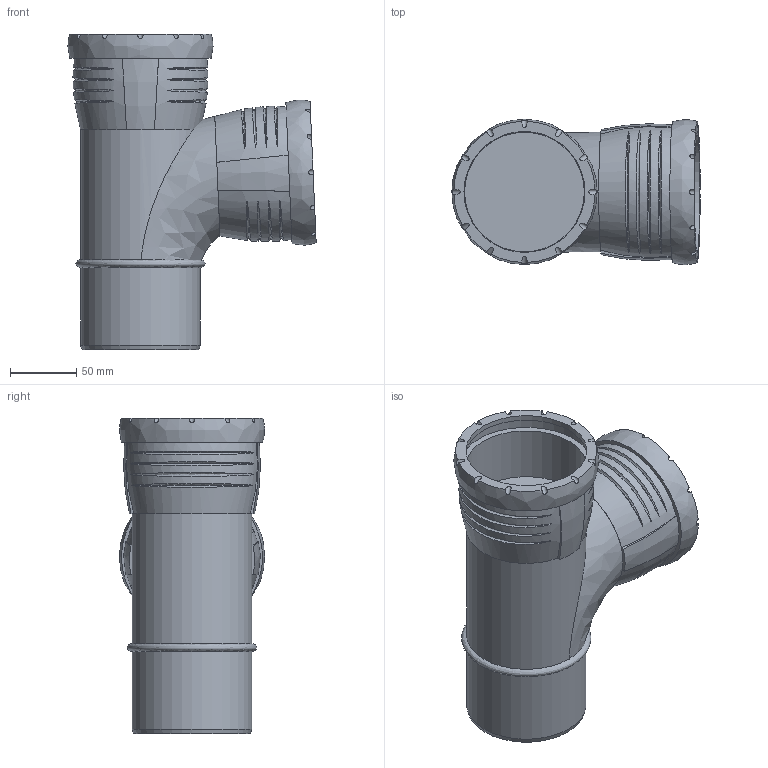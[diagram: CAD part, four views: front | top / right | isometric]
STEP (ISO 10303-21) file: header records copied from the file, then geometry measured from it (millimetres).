
FILE_DESCRIPTION(/* description */ (''),/* implementation_level */ '2;1');
FILE_NAME(/* name */ 'H:\Geberit-Teile\Export\Abzweig PP\stp\393454.stp',/* time_stamp */ '2017-02-13T13:22:41+01:00',/* author */ ('seihe2'),/* organization */ (''),/* preprocessor_version */ 'ST-DEVELOPER v15.2',/* originating_system */ 'Autodesk Inventor 2014',/* authorisation */ '');
FILE_SCHEMA (('AUTOMOTIVE_DESIGN { 1 0 10303 214 3 1 1 }'));
Length unit declared in the file: millimetre
Products named in the file (1): 393454
Bounding box: 187.19 x 109.47 x 237.95 mm (x, y, z)
Volume: 1513375.2 mm3; surface area: 222130.5 mm2
Topology: 5 solids, 5 shells, 104 faces, 240 edges, 170 vertices
Faces by surface type: bspline 48, cylinder 36, plane 19, cone 1
Full cylindrical faces by diameter (mm): 74.497 x2, 81.6 x1, 90.2 x3, 90.9 x2, 91.2 x2, 100.2 x2
Entity records: 7672 total; most frequent: CARTESIAN_POINT 5532, ORIENTED_EDGE 452, DIRECTION 312, EDGE_CURVE 225, VERTEX_POINT 168, AXIS2_PLACEMENT_3D 156, EDGE_LOOP 145, B_SPLINE_CURVE_WITH_KNOTS 124
